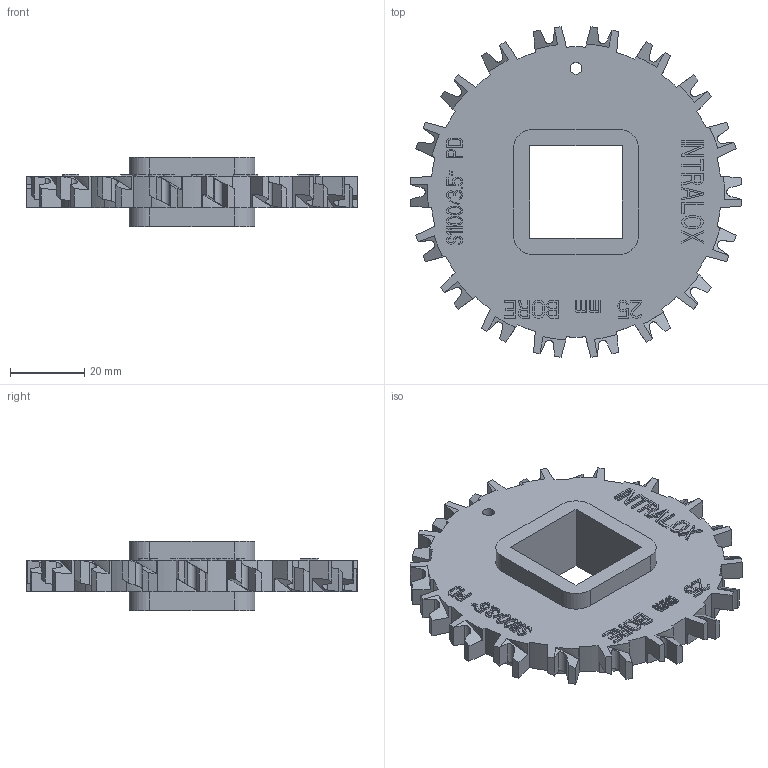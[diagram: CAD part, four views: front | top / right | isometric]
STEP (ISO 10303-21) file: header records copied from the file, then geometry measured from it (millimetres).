
FILE_DESCRIPTION((''),'2;1');
FILE_NAME('S1100_SPROCKET_35X25_SQ','2008-12-12T',('jmumphre'),(''),'PRO/ENGINEER BY PARAMETRIC TECHNOLOGY CORPORATION, 2008150','PRO/ENGINEER BY PARAMETRIC TECHNOLOGY CORPORATION, 2008150','');
FILE_SCHEMA(('CONFIG_CONTROL_DESIGN'));
Length unit declared in the file: inch
Products named in the file (1): S1100_SPROCKET_35X25_SQ
Bounding box: 89.2 x 89.16 x 18.64 mm (x, y, z)
Volume: 44186.4 mm3; surface area: 16891.9 mm2
Topology: 1 solids, 1 shells, 981 faces, 2775 edges, 1838 vertices
Faces by surface type: plane 899, cylinder 82
Entity records: 31683 total; most frequent: CARTESIAN_POINT 6240, ORIENTED_EDGE 5550, DIRECTION 4757, EDGE_CURVE 2775, VECTOR 2611, LINE 2611, VERTEX_POINT 1838, AXIS2_PLACEMENT_3D 1073
